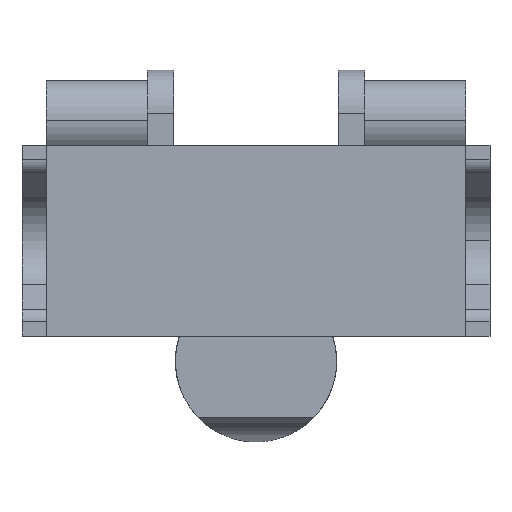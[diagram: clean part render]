
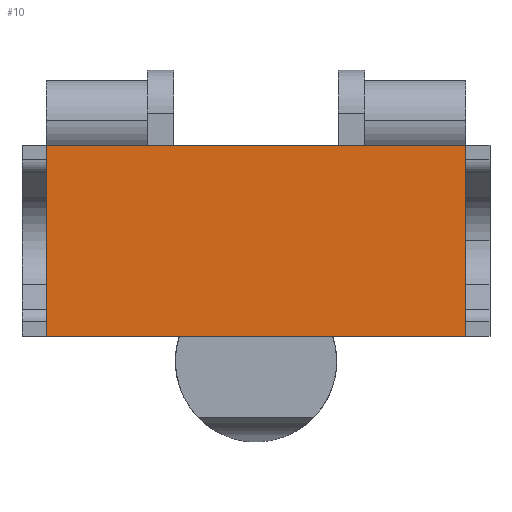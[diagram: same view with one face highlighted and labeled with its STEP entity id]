
A CAD part, top view. The second image highlights one B-rep face of the part: STEP entity #10.
In plain terms, the highlighted planar face has unit normal (0, 0, 1).
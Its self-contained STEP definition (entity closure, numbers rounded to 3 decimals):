
#6 = CARTESIAN_POINT ( 'NONE',  ( -40.035, 17.175, 42.5 ) ) ;
#10 = ADVANCED_FACE ( 'NONE', ( #1832 ), #28, .T. ) ;
#28 = PLANE ( 'NONE',  #1960 ) ;
#67 = VERTEX_POINT ( 'NONE', #1740 ) ;
#100 = EDGE_CURVE ( 'NONE', #1619, #67, #110, .T. ) ;
#107 = VERTEX_POINT ( 'NONE', #830 ) ;
#110 = LINE ( 'NONE', #456, #591 ) ;
#130 = EDGE_CURVE ( 'NONE', #164, #107, #1062, .T. ) ;
#164 = VERTEX_POINT ( 'NONE', #1021 ) ;
#179 = CARTESIAN_POINT ( 'NONE',  ( -61.6, 32.5, 42.5 ) ) ;
#230 = DIRECTION ( 'NONE',  ( 1., 0., 0. ) ) ;
#380 = DIRECTION ( 'NONE',  ( 0., 1., 0. ) ) ;
#410 = LINE ( 'NONE', #1317, #2373 ) ;
#412 = VECTOR ( 'NONE', #1134, 1000. ) ;
#456 = CARTESIAN_POINT ( 'NONE',  ( -65., 32.5, 42.5 ) ) ;
#591 = VECTOR ( 'NONE', #230, 1000. ) ;
#830 = CARTESIAN_POINT ( 'NONE',  ( -61.6, 6., 42.5 ) ) ;
#995 = VECTOR ( 'NONE', #1757, 1000. ) ;
#1021 = CARTESIAN_POINT ( 'NONE',  ( -3.4, 6., 42.5 ) ) ;
#1062 = LINE ( 'NONE', #1375, #995 ) ;
#1131 = CARTESIAN_POINT ( 'NONE',  ( -3.4, 17.175, 42.5 ) ) ;
#1134 = DIRECTION ( 'NONE',  ( 0., 1., 0. ) ) ;
#1317 = CARTESIAN_POINT ( 'NONE',  ( -61.6, 32.5, 42.5 ) ) ;
#1375 = CARTESIAN_POINT ( 'NONE',  ( -32.5, 6., 42.5 ) ) ;
#1446 = LINE ( 'NONE', #1131, #412 ) ;
#1619 = VERTEX_POINT ( 'NONE', #179 ) ;
#1628 = EDGE_CURVE ( 'NONE', #107, #1619, #410, .T. ) ;
#1734 = ORIENTED_EDGE ( 'NONE', *, *, #2213, .T. ) ;
#1740 = CARTESIAN_POINT ( 'NONE',  ( -3.4, 32.5, 42.5 ) ) ;
#1757 = DIRECTION ( 'NONE',  ( -1., 0., 0. ) ) ;
#1832 = FACE_OUTER_BOUND ( 'NONE', #2429, .T. ) ;
#1926 = DIRECTION ( 'NONE',  ( 0., 0., 1. ) ) ;
#1960 = AXIS2_PLACEMENT_3D ( 'NONE', #6, #1926, #2113 ) ;
#2063 = ORIENTED_EDGE ( 'NONE', *, *, #1628, .F. ) ;
#2113 = DIRECTION ( 'NONE',  ( 1., 0., 0. ) ) ;
#2180 = ORIENTED_EDGE ( 'NONE', *, *, #130, .F. ) ;
#2213 = EDGE_CURVE ( 'NONE', #164, #67, #1446, .T. ) ;
#2373 = VECTOR ( 'NONE', #380, 1000. ) ;
#2396 = ORIENTED_EDGE ( 'NONE', *, *, #100, .F. ) ;
#2429 = EDGE_LOOP ( 'NONE', ( #2063, #2180, #1734, #2396 ) ) ;
